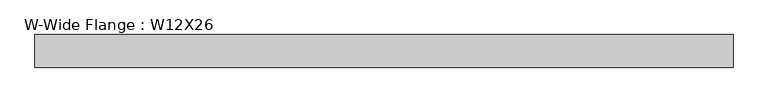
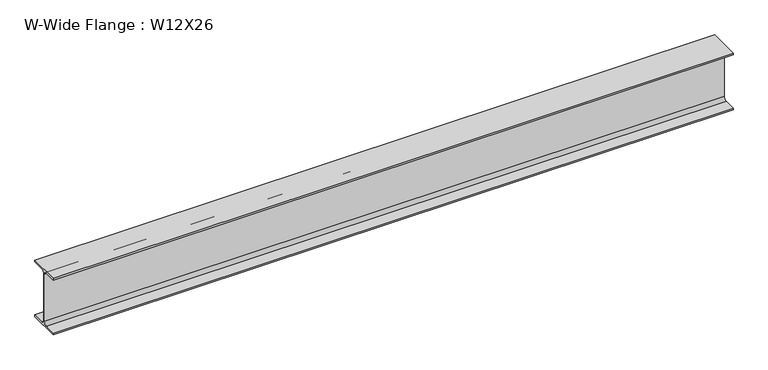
"""IFC4 building model written with IfcOpenShell, lengths in millimetres: beam geometry, W-Wide Flange : W12X26."""

from ifc_helpers import new_model, si_unit, point, frame, frame_2d, origin, place, context, project, spatial, polyline, circle_curve, trimmed, segment, composite_curve, outline, extrude, source, transform, mapped, element, save


def w_wide_flange_w12x26_1e533bcd(model_context):
    return source(origin(), model_context, "Body", "SweptSolid", [
        extrude(outline(composite_curve([segment(polyline([(82.4011719, -145.5539063), (82.4011719, -155.178125), (-82.4011719, -155.178125), (-82.4011719, -145.5539063), (-20.2902344, -145.5539063)]), True, "CONTINUOUS"), segment(trimmed(circle_curve(frame_2d((-20.2902344, -128.190625)), 17.3632812), [point((-20.2902344, -145.5539063))], [point((-2.9269531, -128.190625))], True, "CARTESIAN"), True, "CONTINUOUS"), segment(polyline([(-2.9269531, -128.190625), (-2.9269531, 128.190625)]), True, "CONTINUOUS"), segment(trimmed(circle_curve(frame_2d((-20.2902344, 128.190625)), 17.3632812), [point((-2.9269531, 128.190625))], [point((-20.2902344, 145.5539062))], True, "CARTESIAN"), True, "CONTINUOUS"), segment(polyline([(-20.2902344, 145.5539062), (-82.4011719, 145.5539062), (-82.4011719, 155.178125), (82.4011719, 155.178125), (82.4011719, 145.5539062), (20.2902344, 145.5539062)]), True, "CONTINUOUS"), segment(trimmed(circle_curve(frame_2d((20.2902344, 128.190625)), 17.3632812), [point((20.2902344, 145.5539062))], [point((2.9269531, 128.190625))], True, "CARTESIAN"), True, "CONTINUOUS"), segment(polyline([(2.9269531, 128.190625), (2.9269531, -128.190625)]), True, "CONTINUOUS"), segment(trimmed(circle_curve(frame_2d((20.2902344, -128.190625)), 17.3632812), [point((2.9269531, -128.190625))], [point((20.2902344, -145.5539063))], True, "CARTESIAN"), True, "CONTINUOUS"), segment(polyline([(20.2902344, -145.5539063), (82.4011719, -145.5539063)]), True, "CONTINUOUS")], self_intersect=False)), frame((-1658.2407422, 0.0, 0.0), z_axis=(1.0, 0.0, 0.0), x_axis=(0.0, 1.0, 0.0)), (0.0, 0.0, 1.0), 3521.9352636),
    ])


if __name__ == "__main__":
    model = new_model("IFC4")
    model_context = context("Model", 3, world=origin())
    ifc_project = project(units=[si_unit("LENGTHUNIT", "METRE", prefix="MILLI")], contexts=[model_context])
    site = spatial("IfcSite", under=ifc_project)
    building = spatial("IfcBuilding", under=site)
    placement = place(None, origin())
    w_wide_flange_w12x26_shape = w_wide_flange_w12x26_1e533bcd(model_context)
    element("IfcBeam", 1, ObjectType="W-Wide Flange : W12X26", at=placement, inside=building, context=model_context, shape_type="MappedRepresentation", body=[
        mapped(w_wide_flange_w12x26_shape, transform((0.0, 0.0, 0.0), x_axis=(1.0, 0.0, 0.0), y_axis=(0.0, 1.0, 0.0), z_axis=(0.0, 0.0, 1.0))),
    ])
    save(model, "model.ifc")
